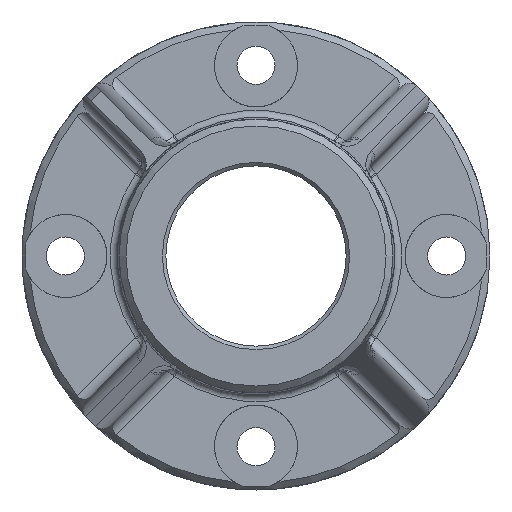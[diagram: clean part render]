
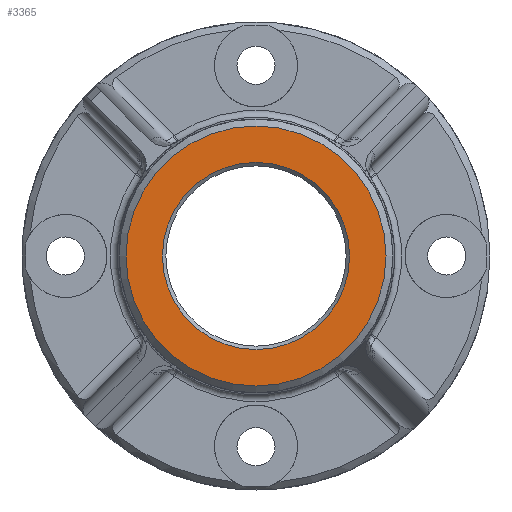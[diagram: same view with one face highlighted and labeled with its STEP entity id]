
A CAD part, left-side view. The second image highlights one B-rep face of the part: STEP entity #3365.
In plain terms, the highlighted planar face has unit normal (-1, 0, 0).
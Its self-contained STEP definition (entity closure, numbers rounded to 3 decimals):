
#330=FACE_BOUND('',#799,.T.);
#392=PLANE('',#3760);
#583=FACE_OUTER_BOUND('',#798,.T.);
#798=EDGE_LOOP('',(#3043));
#799=EDGE_LOOP('',(#3044));
#1257=CIRCLE('',#3759,37.5);
#1258=CIRCLE('',#3761,27.);
#1577=VERTEX_POINT('',#7542);
#1578=VERTEX_POINT('',#7546);
#2077=EDGE_CURVE('',#1577,#1577,#1257,.T.);
#2078=EDGE_CURVE('',#1578,#1578,#1258,.T.);
#3043=ORIENTED_EDGE('',*,*,#2077,.F.);
#3044=ORIENTED_EDGE('',*,*,#2078,.F.);
#3365=ADVANCED_FACE('',(#583,#330),#392,.T.);
#3759=AXIS2_PLACEMENT_3D('',#7544,#4645,#4646);
#3760=AXIS2_PLACEMENT_3D('',#7545,#4647,#4648);
#3761=AXIS2_PLACEMENT_3D('',#7547,#4649,#4650);
#4645=DIRECTION('center_axis',(1.,0.,0.));
#4646=DIRECTION('ref_axis',(0.,-1.,0.));
#4647=DIRECTION('center_axis',(-1.,0.,0.));
#4648=DIRECTION('ref_axis',(0.,0.,1.));
#4649=DIRECTION('center_axis',(-1.,0.,0.));
#4650=DIRECTION('ref_axis',(0.,-1.,0.));
#7542=CARTESIAN_POINT('',(0.,37.5,0.));
#7544=CARTESIAN_POINT('Origin',(0.,0.,
0.));
#7545=CARTESIAN_POINT('Origin',(0.,32.75,0.));
#7546=CARTESIAN_POINT('',(0.,27.,0.));
#7547=CARTESIAN_POINT('Origin',(0.,0.,
0.));
